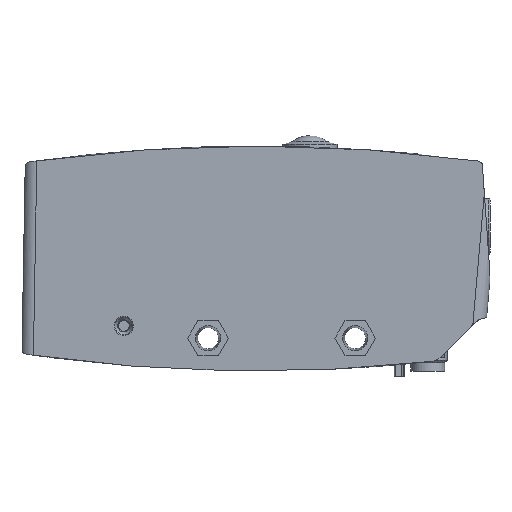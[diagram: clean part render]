
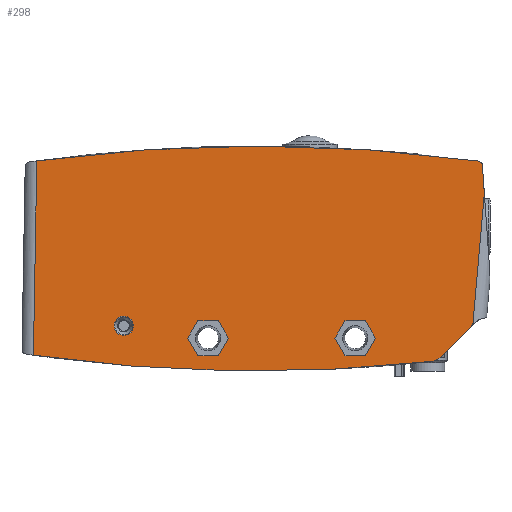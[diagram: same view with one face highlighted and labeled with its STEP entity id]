
A CAD part, left-side view. The second image highlights one B-rep face of the part: STEP entity #298.
In plain terms, the highlighted planar face has unit normal (-1, 0, 0).
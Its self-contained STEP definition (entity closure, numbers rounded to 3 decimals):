
#298 = ADVANCED_FACE( '', ( #878, #879, #880, #881 ), #882, .F. );
#878 = FACE_BOUND( '', #1550, .T. );
#879 = FACE_BOUND( '', #1551, .T. );
#880 = FACE_OUTER_BOUND( '', #1552, .T. );
#881 = FACE_BOUND( '', #1553, .T. );
#882 = PLANE( '', #1554 );
#1550 = EDGE_LOOP( '', ( #3429 ) );
#1551 = EDGE_LOOP( '', ( #3430, #3431, #3432, #3433, #3434, #3435 ) );
#1552 = EDGE_LOOP( '', ( #3436, #3437, #3438, #3439, #3440, #3441, #3442, #3443 ) );
#1553 = EDGE_LOOP( '', ( #3444, #3445, #3446, #3447, #3448, #3449 ) );
#1554 = AXIS2_PLACEMENT_3D( '', #3450, #3451, #3452 );
#3429 = ORIENTED_EDGE( '', *, *, #4546, .T. );
#3430 = ORIENTED_EDGE( '', *, *, #4604, .T. );
#3431 = ORIENTED_EDGE( '', *, *, #4602, .T. );
#3432 = ORIENTED_EDGE( '', *, *, #4600, .T. );
#3433 = ORIENTED_EDGE( '', *, *, #4598, .T. );
#3434 = ORIENTED_EDGE( '', *, *, #4596, .T. );
#3435 = ORIENTED_EDGE( '', *, *, #4593, .T. );
#3436 = ORIENTED_EDGE( '', *, *, #4684, .F. );
#3437 = ORIENTED_EDGE( '', *, *, #4674, .F. );
#3438 = ORIENTED_EDGE( '', *, *, #4685, .F. );
#3439 = ORIENTED_EDGE( '', *, *, #4686, .F. );
#3440 = ORIENTED_EDGE( '', *, *, #4081, .F. );
#3441 = ORIENTED_EDGE( '', *, *, #4679, .F. );
#3442 = ORIENTED_EDGE( '', *, *, #4644, .F. );
#3443 = ORIENTED_EDGE( '', *, *, #4687, .F. );
#3444 = ORIENTED_EDGE( '', *, *, #4565, .T. );
#3445 = ORIENTED_EDGE( '', *, *, #4563, .T. );
#3446 = ORIENTED_EDGE( '', *, *, #4561, .T. );
#3447 = ORIENTED_EDGE( '', *, *, #4559, .T. );
#3448 = ORIENTED_EDGE( '', *, *, #4557, .T. );
#3449 = ORIENTED_EDGE( '', *, *, #4554, .T. );
#3450 = CARTESIAN_POINT( '', ( -42.5, 69.399, 28.234 ) );
#3451 = DIRECTION( '', ( 1., 0., 0. ) );
#3452 = DIRECTION( '', ( 0., 0., -1. ) );
#4081 = EDGE_CURVE( '', #4821, #4823, #4824, .T. );
#4546 = EDGE_CURVE( '', #5621, #5621, #5622, .T. );
#4554 = EDGE_CURVE( '', #5637, #5638, #5639, .T. );
#4557 = EDGE_CURVE( '', #5642, #5637, #5643, .T. );
#4559 = EDGE_CURVE( '', #5645, #5642, #5646, .T. );
#4561 = EDGE_CURVE( '', #5648, #5645, #5649, .T. );
#4563 = EDGE_CURVE( '', #5651, #5648, #5652, .T. );
#4565 = EDGE_CURVE( '', #5638, #5651, #5654, .T. );
#4593 = EDGE_CURVE( '', #5703, #5704, #5705, .T. );
#4596 = EDGE_CURVE( '', #5708, #5703, #5709, .T. );
#4598 = EDGE_CURVE( '', #5711, #5708, #5712, .T. );
#4600 = EDGE_CURVE( '', #5714, #5711, #5715, .T. );
#4602 = EDGE_CURVE( '', #5717, #5714, #5718, .T. );
#4604 = EDGE_CURVE( '', #5704, #5717, #5720, .T. );
#4644 = EDGE_CURVE( '', #5790, #5792, #5793, .T. );
#4674 = EDGE_CURVE( '', #5844, #5846, #5847, .T. );
#4679 = EDGE_CURVE( '', #5792, #4821, #5854, .F. );
#4684 = EDGE_CURVE( '', #5846, #5861, #5862, .T. );
#4685 = EDGE_CURVE( '', #5863, #5844, #5864, .T. );
#4686 = EDGE_CURVE( '', #4823, #5863, #5865, .T. );
#4687 = EDGE_CURVE( '', #5861, #5790, #5866, .T. );
#4821 = VERTEX_POINT( '', #6187 );
#4823 = VERTEX_POINT( '', #6196 );
#4824 = CIRCLE( '', #6197, 500. );
#5621 = VERTEX_POINT( '', #7285 );
#5622 = CIRCLE( '', #7286, 2.944 );
#5637 = VERTEX_POINT( '', #7307 );
#5638 = VERTEX_POINT( '', #7308 );
#5639 = LINE( '', #7309, #7310 );
#5642 = VERTEX_POINT( '', #7315 );
#5643 = LINE( '', #7316, #7317 );
#5645 = VERTEX_POINT( '', #7320 );
#5646 = LINE( '', #7321, #7322 );
#5648 = VERTEX_POINT( '', #7325 );
#5649 = LINE( '', #7326, #7327 );
#5651 = VERTEX_POINT( '', #7330 );
#5652 = LINE( '', #7331, #7332 );
#5654 = LINE( '', #7335, #7336 );
#5703 = VERTEX_POINT( '', #7409 );
#5704 = VERTEX_POINT( '', #7410 );
#5705 = LINE( '', #7411, #7412 );
#5708 = VERTEX_POINT( '', #7417 );
#5709 = LINE( '', #7418, #7419 );
#5711 = VERTEX_POINT( '', #7422 );
#5712 = LINE( '', #7423, #7424 );
#5714 = VERTEX_POINT( '', #7427 );
#5715 = LINE( '', #7428, #7429 );
#5717 = VERTEX_POINT( '', #7432 );
#5718 = LINE( '', #7433, #7434 );
#5720 = LINE( '', #7437, #7438 );
#5790 = VERTEX_POINT( '', #7677 );
#5792 = VERTEX_POINT( '', #7680 );
#5793 = CIRCLE( '', #7681, 484. );
#5844 = VERTEX_POINT( '', #7816 );
#5846 = VERTEX_POINT( '', #7818 );
#5847 = LINE( '', #7819, #7820 );
#5854 = LINE( '', #7850, #7851 );
#5861 = VERTEX_POINT( '', #7872 );
#5862 = LINE( '', #7873, #7874 );
#5863 = VERTEX_POINT( '', #7875 );
#5864 = LINE( '', #7876, #7877 );
#5865 = CIRCLE( '', #7878, 1.5 );
#5866 = CIRCLE( '', #7879, 5. );
#6187 = CARTESIAN_POINT( '', ( -42.5, 67.346, 30.032 ) );
#6196 = CARTESIAN_POINT( '', ( -42.5, -67.681, 29.986 ) );
#6197 = AXIS2_PLACEMENT_3D( '', #8142, #8143, #8144 );
#7285 = CARTESIAN_POINT( '', ( -42.5, 40.75, -23.354 ) );
#7286 = AXIS2_PLACEMENT_3D( '', #9053, #9054, #9055 );
#7307 = CARTESIAN_POINT( '', ( -42.5, -26.939, -29.578 ) );
#7308 = CARTESIAN_POINT( '', ( -42.5, -23.828, -24.19 ) );
#7309 = CARTESIAN_POINT( '', ( -42.5, -26.939, -29.578 ) );
#7310 = VECTOR( '', #9065, 1000. );
#7315 = CARTESIAN_POINT( '', ( -42.5, -33.161, -29.578 ) );
#7316 = CARTESIAN_POINT( '', ( -42.5, -33.161, -29.578 ) );
#7317 = VECTOR( '', #9068, 1000. );
#7320 = CARTESIAN_POINT( '', ( -42.5, -36.272, -24.19 ) );
#7321 = CARTESIAN_POINT( '', ( -42.5, -36.272, -24.19 ) );
#7322 = VECTOR( '', #9070, 1000. );
#7325 = CARTESIAN_POINT( '', ( -42.5, -33.161, -18.802 ) );
#7326 = CARTESIAN_POINT( '', ( -42.5, -33.161, -18.802 ) );
#7327 = VECTOR( '', #9072, 1000. );
#7330 = CARTESIAN_POINT( '', ( -42.5, -26.939, -18.802 ) );
#7331 = CARTESIAN_POINT( '', ( -42.5, -26.939, -18.802 ) );
#7332 = VECTOR( '', #9074, 1000. );
#7335 = CARTESIAN_POINT( '', ( -42.5, -23.828, -24.19 ) );
#7336 = VECTOR( '', #9076, 1000. );
#7409 = CARTESIAN_POINT( '', ( -42.5, 18.061, -29.578 ) );
#7410 = CARTESIAN_POINT( '', ( -42.5, 21.172, -24.19 ) );
#7411 = CARTESIAN_POINT( '', ( -42.5, 18.061, -29.578 ) );
#7412 = VECTOR( '', #9110, 1000. );
#7417 = CARTESIAN_POINT( '', ( -42.5, 11.839, -29.578 ) );
#7418 = CARTESIAN_POINT( '', ( -42.5, 11.839, -29.578 ) );
#7419 = VECTOR( '', #9113, 1000. );
#7422 = CARTESIAN_POINT( '', ( -42.5, 8.728, -24.19 ) );
#7423 = CARTESIAN_POINT( '', ( -42.5, 8.728, -24.19 ) );
#7424 = VECTOR( '', #9115, 1000. );
#7427 = CARTESIAN_POINT( '', ( -42.5, 11.839, -18.802 ) );
#7428 = CARTESIAN_POINT( '', ( -42.5, 11.839, -18.802 ) );
#7429 = VECTOR( '', #9117, 1000. );
#7432 = CARTESIAN_POINT( '', ( -42.5, 18.061, -18.802 ) );
#7433 = CARTESIAN_POINT( '', ( -42.5, 18.061, -18.802 ) );
#7434 = VECTOR( '', #9119, 1000. );
#7437 = CARTESIAN_POINT( '', ( -42.5, 21.172, -24.19 ) );
#7438 = VECTOR( '', #9121, 1000. );
#7677 = CARTESIAN_POINT( '', ( -42.5, -53.347, -31.301 ) );
#7680 = CARTESIAN_POINT( '', ( -42.5, 68.383, -29.395 ) );
#7681 = AXIS2_PLACEMENT_3D( '', #9176, #9177, #9178 );
#7816 = CARTESIAN_POINT( '', ( -42.5, -69.569, 20.098 ) );
#7818 = CARTESIAN_POINT( '', ( -42.5, -66.048, -20.151 ) );
#7819 = CARTESIAN_POINT( '', ( -42.5, -71.654, 43.922 ) );
#7820 = VECTOR( '', #9224, 1000. );
#7850 = CARTESIAN_POINT( '', ( -42.5, 66.977, 51.177 ) );
#7851 = VECTOR( '', #9229, 1000. );
#7872 = CARTESIAN_POINT( '', ( -42.5, -56.332, -29.867 ) );
#7873 = CARTESIAN_POINT( '', ( -42.5, -66.734, -19.464 ) );
#7874 = VECTOR( '', #9233, 1000. );
#7875 = CARTESIAN_POINT( '', ( -42.5, -68.975, 28.605 ) );
#7876 = CARTESIAN_POINT( '', ( -42.5, -68.975, 28.605 ) );
#7877 = VECTOR( '', #9234, 1000. );
#7878 = AXIS2_PLACEMENT_3D( '', #9235, #9236, #9237 );
#7879 = AXIS2_PLACEMENT_3D( '', #9238, #9239, #9240 );
#8142 = CARTESIAN_POINT( '', ( -42.5, 0., -465.412 ) );
#8143 = DIRECTION( '', ( 1., 0., 0. ) );
#8144 = DIRECTION( '', ( 0., 0., -1. ) );
#9053 = CARTESIAN_POINT( '', ( -42.5, 40.75, -20.41 ) );
#9054 = DIRECTION( '', ( 1., 0., 0. ) );
#9055 = DIRECTION( '', ( 0., 0., -1. ) );
#9065 = DIRECTION( '', ( 0., 0.5, 0.866 ) );
#9068 = DIRECTION( '', ( 0., 1., 0. ) );
#9070 = DIRECTION( '', ( 0., 0.5, -0.866 ) );
#9072 = DIRECTION( '', ( 0., -0.5, -0.866 ) );
#9074 = DIRECTION( '', ( 0., -1., 0. ) );
#9076 = DIRECTION( '', ( 0., -0.5, 0.866 ) );
#9110 = DIRECTION( '', ( 0., 0.5, 0.866 ) );
#9113 = DIRECTION( '', ( 0., 1., 0. ) );
#9115 = DIRECTION( '', ( 0., 0.5, -0.866 ) );
#9117 = DIRECTION( '', ( 0., -0.5, -0.866 ) );
#9119 = DIRECTION( '', ( 0., -1., 0. ) );
#9121 = DIRECTION( '', ( 0., -0.5, 0.866 ) );
#9176 = CARTESIAN_POINT( '', ( -42.5, 0., 449.75 ) );
#9177 = DIRECTION( '', ( 1., 0., 0. ) );
#9178 = DIRECTION( '', ( 0., 0., -1. ) );
#9224 = DIRECTION( '', ( 0., 0.087, -0.996 ) );
#9229 = DIRECTION( '', ( 0., 0.017, -1. ) );
#9233 = DIRECTION( '', ( 0., 0.707, -0.707 ) );
#9234 = DIRECTION( '', ( 0., -0.07, -0.998 ) );
#9235 = CARTESIAN_POINT( '', ( -42.5, -67.478, 28.5 ) );
#9236 = DIRECTION( '', ( 1., 0., 0. ) );
#9237 = DIRECTION( '', ( 0., 0., -1. ) );
#9238 = CARTESIAN_POINT( '', ( -42.5, -52.796, -26.331 ) );
#9239 = DIRECTION( '', ( 1., 0., 0. ) );
#9240 = DIRECTION( '', ( 0., 0., -1. ) );
